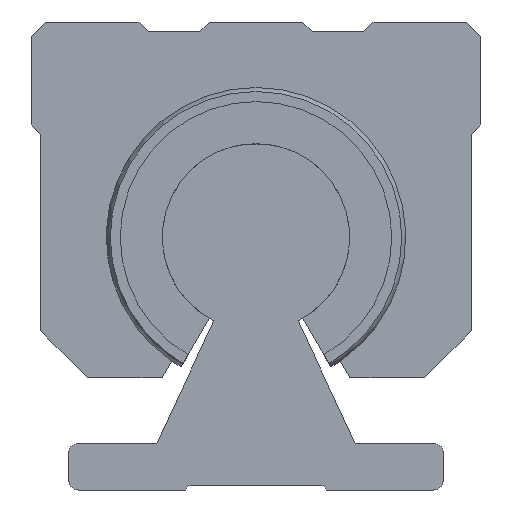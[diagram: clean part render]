
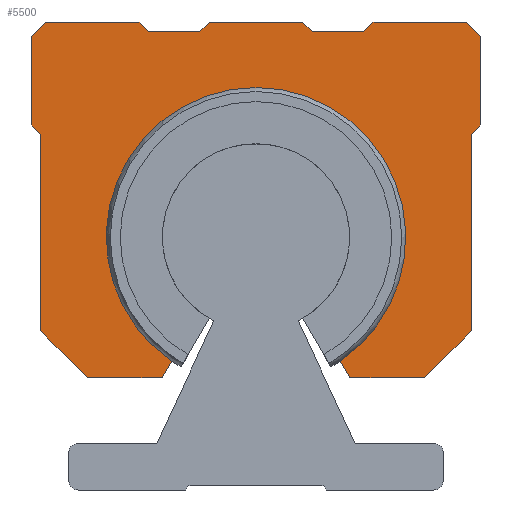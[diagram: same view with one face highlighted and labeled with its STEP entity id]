
A CAD part, left-side view. The second image highlights one B-rep face of the part: STEP entity #5500.
In plain terms, the highlighted planar face has unit normal (-1, 0, 0).
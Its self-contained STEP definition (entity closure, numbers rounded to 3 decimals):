
#4267=CARTESIAN_POINT('',(0.0,-9.0,-13.229));
#4268=VERTEX_POINT('',#4267);
#4275=CARTESIAN_POINT('',(0.0,9.0,-13.229));
#4276=VERTEX_POINT('',#4275);
#4277=CARTESIAN_POINT('',(0.0,0.0,0.0));
#4278=DIRECTION('',(-1.0,0.0,0.0));
#4279=DIRECTION('',(0.0,-1.0,0.0));
#4280=AXIS2_PLACEMENT_3D('',#4277,#4278,#4279);
#4281=CIRCLE('',#4280,16.0);
#4282=EDGE_CURVE('',#4268,#4276,#4281,.T.);
#4450=CARTESIAN_POINT('',(0.0,-23.,-10.));
#4451=VERTEX_POINT('',#4450);
#4458=CARTESIAN_POINT('',(0.0,-18.,-15.));
#4459=VERTEX_POINT('',#4458);
#4460=CARTESIAN_POINT('',(0.0,-23.,-10.));
#4461=DIRECTION('',(0.0,0.707,-0.707));
#4462=VECTOR('',#4461,7.071);
#4463=LINE('',#4460,#4462);
#4464=EDGE_CURVE('',#4451,#4459,#4463,.T.);
#4489=CARTESIAN_POINT('',(0.0,-23.,11.0));
#4490=VERTEX_POINT('',#4489);
#4497=CARTESIAN_POINT('',(0.0,-23.,11.0));
#4498=DIRECTION('',(0.0,0.0,-1.0));
#4499=VECTOR('',#4498,21.0);
#4500=LINE('',#4497,#4499);
#4501=EDGE_CURVE('',#4490,#4451,#4500,.T.);
#4687=CARTESIAN_POINT('',(0.0,18.,-15.));
#4688=VERTEX_POINT('',#4687);
#4695=CARTESIAN_POINT('',(0.0,23.,-10.));
#4696=VERTEX_POINT('',#4695);
#4697=CARTESIAN_POINT('',(0.0,18.,-15.));
#4698=DIRECTION('',(0.0,0.707,0.707));
#4699=VECTOR('',#4698,7.071);
#4700=LINE('',#4697,#4699);
#4701=EDGE_CURVE('',#4688,#4696,#4700,.T.);
#4719=CARTESIAN_POINT('',(0.0,10.023,-15.));
#4720=VERTEX_POINT('',#4719);
#4727=CARTESIAN_POINT('',(0.0,10.023,-15.));
#4728=DIRECTION('',(0.0,1.0,0.0));
#4729=VECTOR('',#4728,7.977);
#4730=LINE('',#4727,#4729);
#4731=EDGE_CURVE('',#4720,#4688,#4730,.T.);
#4741=CARTESIAN_POINT('',(0.0,-5.,23.));
#4742=VERTEX_POINT('',#4741);
#4743=CARTESIAN_POINT('',(0.0,-6.,22.0));
#4744=VERTEX_POINT('',#4743);
#4745=CARTESIAN_POINT('',(0.0,-5.,23.));
#4746=DIRECTION('',(0.0,-0.707,-0.707));
#4747=VECTOR('',#4746,1.414);
#4748=LINE('',#4745,#4747);
#4749=EDGE_CURVE('',#4742,#4744,#4748,.T.);
#4773=CARTESIAN_POINT('',(0.0,-11.5,22.0));
#4774=VERTEX_POINT('',#4773);
#4775=CARTESIAN_POINT('',(0.0,-6.,22.0));
#4776=DIRECTION('',(0.0,-1.0,0.0));
#4777=VECTOR('',#4776,5.5);
#4778=LINE('',#4775,#4777);
#4779=EDGE_CURVE('',#4744,#4774,#4778,.T.);
#4796=CARTESIAN_POINT('',(0.0,12.5,23.0));
#4797=VERTEX_POINT('',#4796);
#4798=CARTESIAN_POINT('',(0.0,11.5,22.0));
#4799=VERTEX_POINT('',#4798);
#4800=CARTESIAN_POINT('',(0.0,12.5,23.0));
#4801=DIRECTION('',(0.0,-0.707,-0.707));
#4802=VECTOR('',#4801,1.414);
#4803=LINE('',#4800,#4802);
#4804=EDGE_CURVE('',#4797,#4799,#4803,.T.);
#4828=CARTESIAN_POINT('',(0.0,6.,22.0));
#4829=VERTEX_POINT('',#4828);
#4830=CARTESIAN_POINT('',(0.0,11.5,22.0));
#4831=DIRECTION('',(0.0,-1.0,0.0));
#4832=VECTOR('',#4831,5.5);
#4833=LINE('',#4830,#4832);
#4834=EDGE_CURVE('',#4799,#4829,#4833,.T.);
#4851=CARTESIAN_POINT('',(0.0,5.,23.));
#4852=VERTEX_POINT('',#4851);
#4853=CARTESIAN_POINT('',(0.0,6.,22.0));
#4854=DIRECTION('',(0.0,-0.707,0.707));
#4855=VECTOR('',#4854,1.414);
#4856=LINE('',#4853,#4855);
#4857=EDGE_CURVE('',#4829,#4852,#4856,.T.);
#4875=CARTESIAN_POINT('',(0.0,-12.5,23.0));
#4876=VERTEX_POINT('',#4875);
#4877=CARTESIAN_POINT('',(0.0,-11.5,22.0));
#4878=DIRECTION('',(0.0,-0.707,0.707));
#4879=VECTOR('',#4878,1.414);
#4880=LINE('',#4877,#4879);
#4881=EDGE_CURVE('',#4774,#4876,#4880,.T.);
#4899=CARTESIAN_POINT('',(0.0,23.,11.));
#4900=VERTEX_POINT('',#4899);
#4901=CARTESIAN_POINT('',(0.0,24.,12.0));
#4902=VERTEX_POINT('',#4901);
#4903=CARTESIAN_POINT('',(0.0,23.,11.));
#4904=DIRECTION('',(0.0,0.707,0.707));
#4905=VECTOR('',#4904,1.414);
#4906=LINE('',#4903,#4905);
#4907=EDGE_CURVE('',#4900,#4902,#4906,.T.);
#4930=CARTESIAN_POINT('',(0.0,-24.,12.0));
#4931=VERTEX_POINT('',#4930);
#4932=CARTESIAN_POINT('',(0.0,-24.,12.0));
#4933=DIRECTION('',(0.0,0.707,-0.707));
#4934=VECTOR('',#4933,1.414);
#4935=LINE('',#4932,#4934);
#4936=EDGE_CURVE('',#4931,#4490,#4935,.T.);
#4955=CARTESIAN_POINT('',(0.0,24.,21.5));
#4956=VERTEX_POINT('',#4955);
#4963=CARTESIAN_POINT('',(0.0,22.5,23.0));
#4964=VERTEX_POINT('',#4963);
#4965=CARTESIAN_POINT('',(0.0,24.,21.5));
#4966=DIRECTION('',(0.0,-0.707,0.707));
#4967=VECTOR('',#4966,2.121);
#4968=LINE('',#4965,#4967);
#4969=EDGE_CURVE('',#4956,#4964,#4968,.T.);
#4988=CARTESIAN_POINT('',(0.0,24.,12.0));
#4989=DIRECTION('',(0.0,0.0,1.0));
#4990=VECTOR('',#4989,9.5);
#4991=LINE('',#4988,#4990);
#4992=EDGE_CURVE('',#4902,#4956,#4991,.T.);
#5003=CARTESIAN_POINT('',(0.0,-22.5,23.0));
#5004=VERTEX_POINT('',#5003);
#5011=CARTESIAN_POINT('',(0.0,-24.,21.5));
#5012=VERTEX_POINT('',#5011);
#5013=CARTESIAN_POINT('',(0.0,-22.5,23.0));
#5014=DIRECTION('',(0.0,-0.707,-0.707));
#5015=VECTOR('',#5014,2.121);
#5016=LINE('',#5013,#5015);
#5017=EDGE_CURVE('',#5004,#5012,#5016,.T.);
#5036=CARTESIAN_POINT('',(0.0,-12.5,23.0));
#5037=DIRECTION('',(0.0,-1.0,0.0));
#5038=VECTOR('',#5037,10.0);
#5039=LINE('',#5036,#5038);
#5040=EDGE_CURVE('',#4876,#5004,#5039,.T.);
#5373=CARTESIAN_POINT('',(0.0,23.,-10.));
#5374=DIRECTION('',(0.0,0.0,1.0));
#5375=VECTOR('',#5374,21.0);
#5376=LINE('',#5373,#5375);
#5377=EDGE_CURVE('',#4696,#4900,#5376,.T.);
#5397=CARTESIAN_POINT('',(0.0,9.0,-13.229));
#5398=DIRECTION('',(0.0,0.5,-0.866));
#5399=VECTOR('',#5398,2.045);
#5400=LINE('',#5397,#5399);
#5401=EDGE_CURVE('',#4276,#4720,#5400,.T.);
#5413=CARTESIAN_POINT('',(0.0,-10.023,-15.));
#5414=VERTEX_POINT('',#5413);
#5421=CARTESIAN_POINT('',(0.0,-10.023,-15.));
#5422=DIRECTION('',(0.0,0.5,0.866));
#5423=VECTOR('',#5422,2.045);
#5424=LINE('',#5421,#5423);
#5425=EDGE_CURVE('',#5414,#4268,#5424,.T.);
#5443=CARTESIAN_POINT('',(0.0,-18.,-15.));
#5444=DIRECTION('',(0.0,1.0,0.0));
#5445=VECTOR('',#5444,7.977);
#5446=LINE('',#5443,#5445);
#5447=EDGE_CURVE('',#4459,#5414,#5446,.T.);
#5454=CARTESIAN_POINT('',(0.0,0.,4.46));
#5455=DIRECTION('',(1.0,0.0,0.0));
#5456=DIRECTION('',(0.0,0.0,-1.0));
#5457=AXIS2_PLACEMENT_3D('',#5454,#5455,#5456);
#5458=PLANE('',#5457);
#5459=ORIENTED_EDGE('',*,*,#4464,.F.);
#5460=ORIENTED_EDGE('',*,*,#4501,.F.);
#5461=ORIENTED_EDGE('',*,*,#4936,.F.);
#5462=CARTESIAN_POINT('',(0.0,-24.,21.5));
#5463=DIRECTION('',(0.0,0.0,-1.0));
#5464=VECTOR('',#5463,9.5);
#5465=LINE('',#5462,#5464);
#5466=EDGE_CURVE('',#5012,#4931,#5465,.T.);
#5467=ORIENTED_EDGE('',*,*,#5466,.F.);
#5468=ORIENTED_EDGE('',*,*,#5017,.F.);
#5469=ORIENTED_EDGE('',*,*,#5040,.F.);
#5470=ORIENTED_EDGE('',*,*,#4881,.F.);
#5471=ORIENTED_EDGE('',*,*,#4779,.F.);
#5472=ORIENTED_EDGE('',*,*,#4749,.F.);
#5473=CARTESIAN_POINT('',(0.0,5.,23.));
#5474=DIRECTION('',(0.0,-1.0,0.0));
#5475=VECTOR('',#5474,10.);
#5476=LINE('',#5473,#5475);
#5477=EDGE_CURVE('',#4852,#4742,#5476,.T.);
#5478=ORIENTED_EDGE('',*,*,#5477,.F.);
#5479=ORIENTED_EDGE('',*,*,#4857,.F.);
#5480=ORIENTED_EDGE('',*,*,#4834,.F.);
#5481=ORIENTED_EDGE('',*,*,#4804,.F.);
#5482=CARTESIAN_POINT('',(0.0,22.5,23.0));
#5483=DIRECTION('',(0.0,-1.0,0.0));
#5484=VECTOR('',#5483,10.);
#5485=LINE('',#5482,#5484);
#5486=EDGE_CURVE('',#4964,#4797,#5485,.T.);
#5487=ORIENTED_EDGE('',*,*,#5486,.F.);
#5488=ORIENTED_EDGE('',*,*,#4969,.F.);
#5489=ORIENTED_EDGE('',*,*,#4992,.F.);
#5490=ORIENTED_EDGE('',*,*,#4907,.F.);
#5491=ORIENTED_EDGE('',*,*,#5377,.F.);
#5492=ORIENTED_EDGE('',*,*,#4701,.F.);
#5493=ORIENTED_EDGE('',*,*,#4731,.F.);
#5494=ORIENTED_EDGE('',*,*,#5401,.F.);
#5495=ORIENTED_EDGE('',*,*,#4282,.F.);
#5496=ORIENTED_EDGE('',*,*,#5425,.F.);
#5497=ORIENTED_EDGE('',*,*,#5447,.F.);
#5498=EDGE_LOOP('',(#5459,#5460,#5461,#5467,#5468,#5469,#5470,#5471,#5472,#5478,#5479,#5480,#5481,#5487,#5488,#5489,#5490,#5491,#5492,#5493,#5494,#5495,#5496,#5497));
#5499=FACE_OUTER_BOUND('',#5498,.T.);
#5500=ADVANCED_FACE('',(#5499),#5458,.F.);
